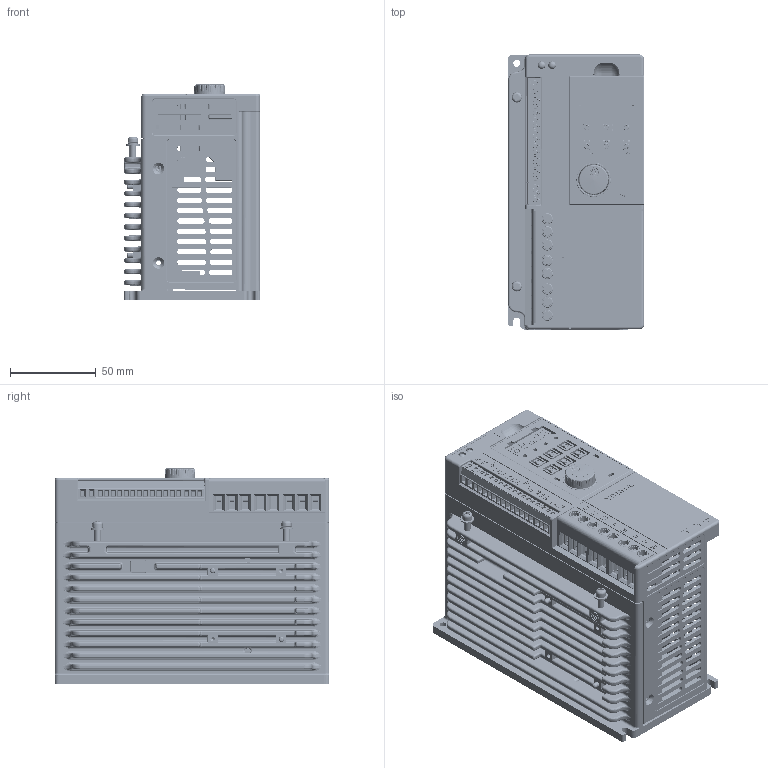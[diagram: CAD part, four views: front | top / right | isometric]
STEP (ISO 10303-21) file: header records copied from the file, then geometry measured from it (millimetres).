
FILE_DESCRIPTION (( 'STEP AP203' ), '1' );
FILE_NAME ('YD0000 （给客户）18.03.19..STEP', '2018-03-19T02:02:05', ( 'User' ), ( 'china' ), 'SwSTEP 2.0', 'SolidWorks 2017', '' );
FILE_SCHEMA (( 'CONFIG_CONTROL_DESIGN' ));
Length unit declared in the file: millimetre
Products named in the file (29): esk762-wz-03p; 泐え齬渀12.05.04; TACTLE SWITCH SNTTYPE   ELTM-41; esk762-wz-02P; 尥翹諳-112.05.22; VR 10.12.07; TJ952-02_TER; ech508v-02p; KB-A011-2P-WP(帽子）12.04.12; TJ635-00_DIAMONDS; ech381v-13p; keypad 12.6.28; tj952-03 ; ech381v-03p; 諉華蹟緲M4℅10; keypad cover12.06.28; 嘐隅褐 ycnc001; ec508v-02p; RJ45 90僅 8pin そ敖 11.09.21; LED; ec381v-03p; ec381v-13p; led-2pin; keypad downcover 12.06.28; YRAD119 ( 散热座YD101-F1 400V  403 3D 13.7.4 核对); upper cover 400V F1 12.07.02; 泐え-2.54  12.05.19; RJ45 180僅 8p; YD0000 （给客户）18.03.19.
Assembly tree (40 placements, depth 3):
  YD0000 （给客户）18.03.19.
    keypad 12.6.28
      keypad cover12.06.28
      LED
      keypad downcover 12.06.28
      RJ45 180僅 8p
      TACTLE SWITCH SNTTYPE   ELTM-41  x6
      VR 10.12.07
      KB-A011-2P-WP(帽子）12.04.12
    諉華蹟緲M4℅10  x2
    RJ45 90僅 8pin そ敖 11.09.21
    led-2pin
    泐え-2.54  12.05.19
    泐え齬渀12.05.04
    尥翹諳-112.05.22
    ech508v-02p
    ech381v-13p
    ech381v-03p
    ec508v-02p
    ec381v-13p
    upper cover 400V F1 12.07.02
    esk762-wz-03p  x2
    esk762-wz-02P
    tj952-03   x2
      TJ952-02_TER
      TJ635-00_DIAMONDS
    嘐隅褐 ycnc001
    ec381v-03p
    YRAD119 ( 散热座YD101-F1 400V  403 3D 13.7.4 核对)
Bounding box: 79 x 160 x 125.75 mm (x, y, z)
Volume: 342771.5 mm3; surface area: 243005.5 mm2
Topology: 56 solids, 58 shells, 11848 faces, 31305 edges, 19878 vertices
Faces by surface type: plane 6433, cylinder 2896, bspline 1794, cone 418, torus 230, sphere 77
Entity records: 400697 total; most frequent: CARTESIAN_POINT 156115, ORIENTED_EDGE 55124, DIRECTION 42651, EDGE_CURVE 27562, VERTEX_POINT 17619, LINE 17055, VECTOR 17055, AXIS2_PLACEMENT_3D 12798
